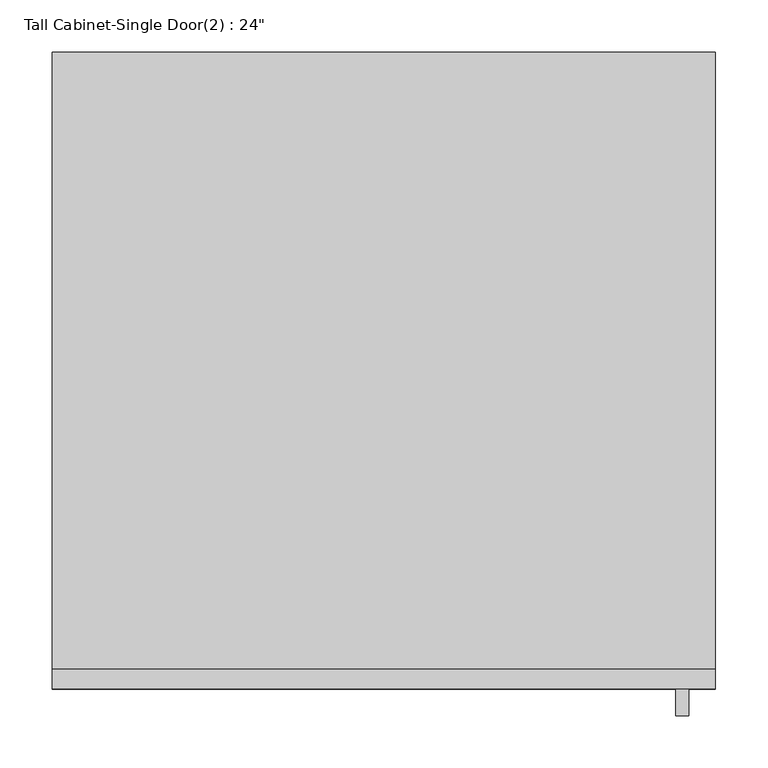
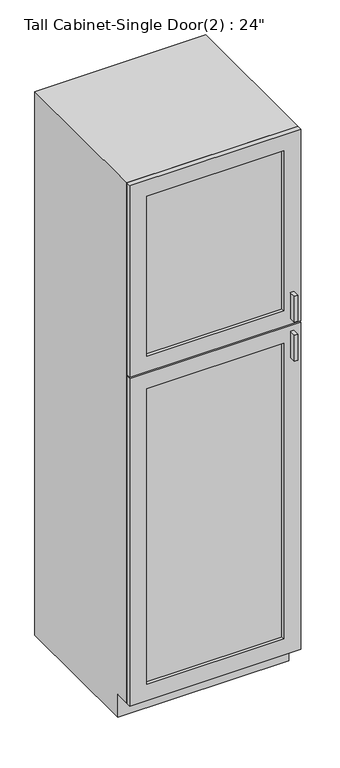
"""IFC4 building model written with IfcOpenShell, lengths in millimetres: furniture geometry."""

from ifc_helpers import new_model, si_unit, frame, origin, place, context, project, spatial, polyline, outline, extrude, faceted_brep, source, transform, mapped, element, save


def furniture_6a7c2255(model_context):
    return source(origin(), model_context, "Body", "SolidModel", [
        faceted_brep([(336.2377049, -590.55, 90.4875), (336.2377049, -590.55, 2133.6), (-298.7622951, -590.55, 2133.6), (-298.7622951, -590.55, 90.4875), (317.1877049, -590.55, 2114.55), (317.1877049, -590.55, 109.5375), (-279.7122951, -590.55, 109.5375), (-279.7122951, -590.55, 2114.55), (-298.7622951, 0.0, 2133.6), (336.2377049, 0.0, 2133.6), (336.2377049, 0.0, 0.0), (-298.7622951, 0.0, 0.0), (336.2377049, -533.4, 90.4875), (336.2377049, -533.4, 0.0), (-298.7622951, -533.4, 0.0), (-298.7622951, -533.4, 90.4875), (317.1877049, -19.05, 2114.55), (317.1877049, -19.05, 109.5375), (-279.7122951, -19.05, 109.5375), (-279.7122951, -19.05, 2114.55)], [[[0, 1, 2, 3], [4, 5, 6, 7]], [[8, 9, 10, 11]], [[1, 0, 12, 13, 10, 9]], [[2, 1, 9, 8]], [[3, 2, 8, 11, 14, 15]], [[0, 3, 15, 12]], [[5, 4, 16, 17]], [[6, 5, 17, 18]], [[7, 6, 18, 19]], [[4, 7, 19, 16]], [[10, 13, 14, 11]], [[14, 13, 12, 15]], [[17, 16, 19, 18]]]),
        extrude(outline(polyline([(310.8377049, -635.0), (298.3054733, -635.0), (298.3054733, -609.6), (310.8377049, -609.6), (310.8377049, -635.0)])), frame((0.0, 0.0, 1403.5480367), z_axis=(0.0, 0.0, 1.0), x_axis=(1.0, 0.0, 0.0)), (0.0, 0.0, 1.0), 101.6),
        extrude(outline(polyline([(310.8377049, -635.0), (298.3054733, -635.0), (298.3054733, -609.6), (310.8377049, -609.6), (310.8377049, -635.0)])), frame((0.0, 0.0, 1251.1480367), z_axis=(0.0, 0.0, 1.0), x_axis=(1.0, 0.0, 0.0)), (0.0, 0.0, 1.0), 101.6),
        extrude(outline(polyline([(272.7377049, -596.9), (-235.2622951, -596.9), (-235.2622951, -590.55), (272.7377049, -590.55), (272.7377049, -596.9)])), frame((0.0, 0.0, 1441.6480367), z_axis=(0.0, 0.0, 1.0), x_axis=(1.0, 0.0, 0.0)), (0.0, 0.0, 1.0), 628.4519633),
        extrude(outline(polyline([(272.7377049, -596.9), (-235.2622951, -596.9), (-235.2622951, -590.55), (272.7377049, -590.55), (272.7377049, -596.9)])), frame((0.0, 0.0, 153.9875), z_axis=(0.0, 0.0, 1.0), x_axis=(1.0, 0.0, 0.0)), (0.0, 0.0, 1.0), 1160.6605367),
        extrude(outline(polyline([(2133.6, 336.2377049), (2133.6, -298.7622951), (1381.3230367, -298.7622951), (1381.3230367, 336.2377049), (2133.6, 336.2377049)]), holes=[polyline([(2070.1, 272.7377049), (1441.6480367, 272.7377049), (1441.6480367, -235.2622951), (2070.1, -235.2622951), (2070.1, 272.7377049)])]), frame((0.0, -609.6, 0.0), z_axis=(0.0, 1.0, 0.0), x_axis=(0.0, 0.0, 1.0)), (0.0, 0.0, 1.0), 19.05),
        extrude(outline(polyline([(90.4875, 336.2377049), (1374.9730367, 336.2377049), (1374.9730367, -298.7622951), (90.4875, -298.7622951), (90.4875, 336.2377049)]), holes=[polyline([(1314.6480367, 272.7377049), (153.9875, 272.7377049), (153.9875, -235.2622951), (1314.6480367, -235.2622951), (1314.6480367, 272.7377049)])]), frame((0.0, -609.6, 0.0), z_axis=(0.0, 1.0, 0.0), x_axis=(0.0, 0.0, 1.0)), (0.0, 0.0, 1.0), 19.05),
    ])


if __name__ == "__main__":
    model = new_model("IFC4")
    model_context = context("Model", 3, world=origin())
    ifc_project = project(units=[si_unit("LENGTHUNIT", "METRE", prefix="MILLI")], contexts=[model_context])
    site = spatial("IfcSite", under=ifc_project)
    building = spatial("IfcBuilding", under=site)
    placement = place(None, origin())
    furniture_shape = furniture_6a7c2255(model_context)
    element("IfcFurniture", 1, ObjectType="Tall Cabinet-Single Door(2) : 24\"", at=placement, inside=building, context=model_context, shape_type="MappedRepresentation", body=[
        mapped(furniture_shape, transform((0.0, 0.0, 0.0), x_axis=(1.0, 0.0, 0.0), y_axis=(0.0, 1.0, 0.0), z_axis=(0.0, 0.0, 1.0))),
    ])
    save(model, "model.ifc")
